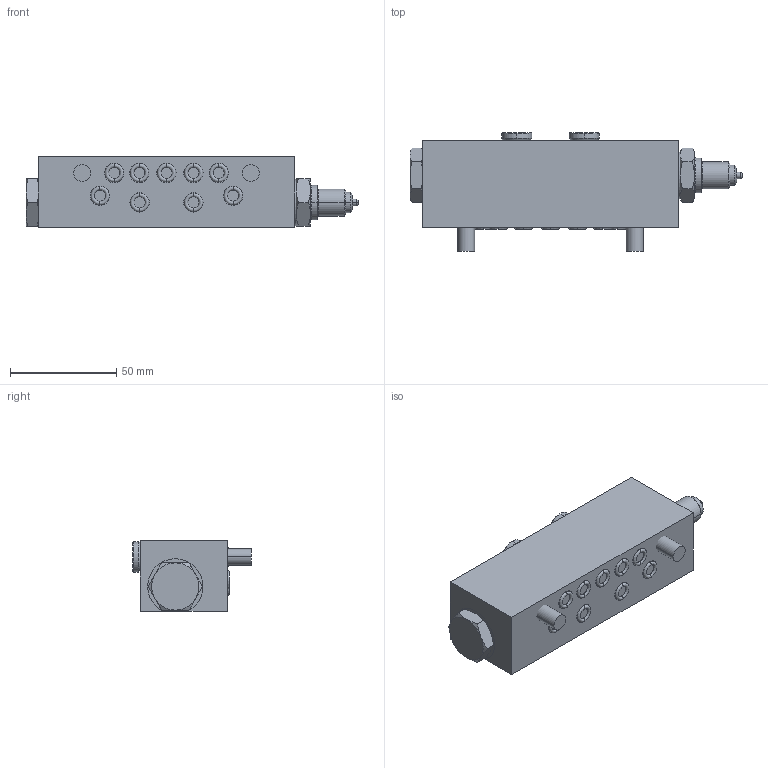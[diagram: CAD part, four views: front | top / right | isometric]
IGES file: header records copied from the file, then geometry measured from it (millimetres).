
Start section:  PTC IGES file: 562830-en-h.igs
Global section: file name: 562830-en-h.igs; native system: Creo Parametric by PTC Inc.; preprocessor: 2019030; author: qusrh3; organization: Unknown; date: 20200305.090250; units: inch
Bounding box: 156.3 x 55.93 x 33.03 mm (x, y, z)
Surface area: 28774.4 mm2 (no closed solid volume)
Topology: 0 solids, 0 shells, 146 faces, 568 edges, 568 vertices
Faces by surface type: revolution 107, bspline 39
